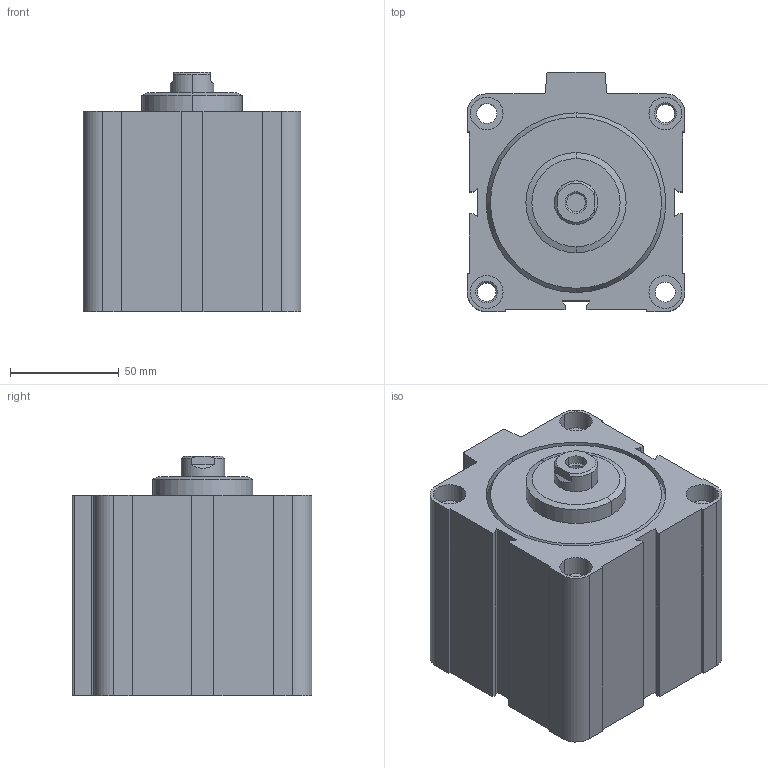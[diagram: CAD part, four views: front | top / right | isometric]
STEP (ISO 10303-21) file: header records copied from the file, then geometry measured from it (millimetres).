
FILE_DESCRIPTION((''),'2;1');
FILE_NAME('R402005790_ASM','2015-07-01T',('vol1hc'),(''),'PRO/ENGINEER BY PARAMETRIC TECHNOLOGY CORPORATION, 2012421','PRO/ENGINEER BY PARAMETRIC TECHNOLOGY CORPORATION, 2012421','');
FILE_SCHEMA(('CONFIG_CONTROL_DESIGN','SHAPE_APPEARANCE_LAYERS_GROUPS'));
Length unit declared in the file: millimetre
Products named in the file (3): R402005790-A; R402005790-B; R402005790_ASM
Assembly tree (2 placements, depth 2):
  R402005790_ASM
    R402005790-A
    R402005790-B
Bounding box: 100 x 110 x 110 mm (x, y, z)
Volume: 650627.7 mm3; surface area: 130783.1 mm2
Topology: 2 solids, 2 shells, 157 faces, 368 edges, 236 vertices
Faces by surface type: plane 67, cylinder 60, cone 26, torus 4
Entity records: 4674 total; most frequent: DIRECTION 842, CARTESIAN_POINT 814, ORIENTED_EDGE 736, EDGE_CURVE 368, AXIS2_PLACEMENT_3D 318, VERTEX_POINT 236, VECTOR 206, LINE 206
